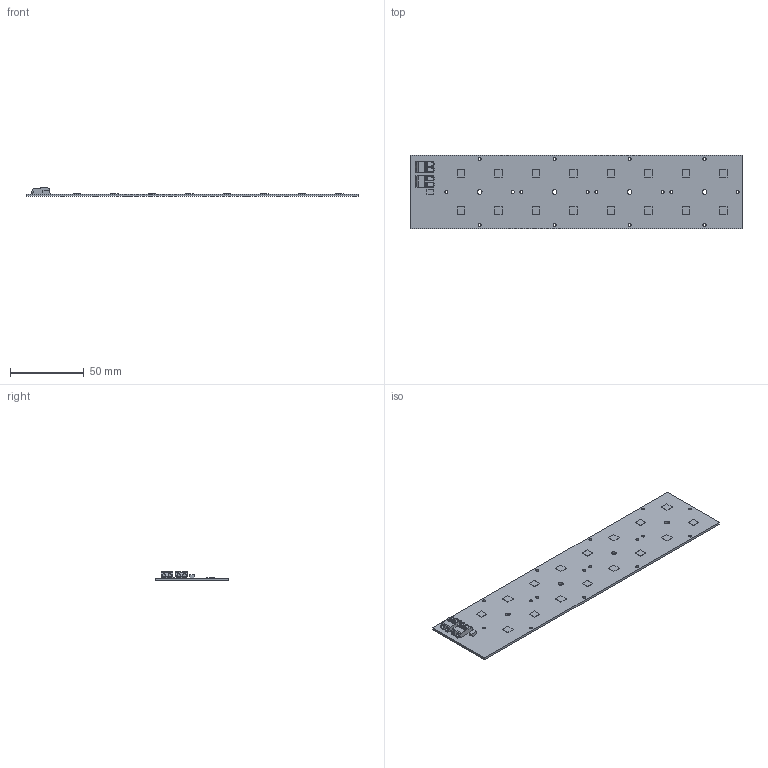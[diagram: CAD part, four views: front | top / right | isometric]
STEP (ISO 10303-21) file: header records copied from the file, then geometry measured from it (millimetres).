
FILE_DESCRIPTION(('Open CASCADE Model'),'2;1');
FILE_NAME('Open CASCADE Shape Model','2025-11-18T13:29:56',('Author'),( 'Open CASCADE'),'Open CASCADE STEP processor 7.5','Open CASCADE 7.5' ,'Unknown');
FILE_SCHEMA(('AUTOMOTIVE_DESIGN { 1 0 10303 214 1 1 1 1 }'));
Length unit declared in the file: millimetre
Products named in the file (29): PCB; Board; Open CASCADE STEP translator 7.5 4.1.1; LED16; 7274493776; Extruded; LED15; LED14; 7274493296; LED13; TVS; 6591467776; LED1; LED12; LED8; LED10; LED4; LED11; LED5; LED7; LED6; LED2; LED3; LED9; J2; 2060-452_998-404; J1
Assembly tree (43 placements, depth 4):
  PCB
    Board
      Open CASCADE STEP translator 7.5 4.1.1
    LED16
      7274493776
        Extruded
    LED15
      7274493776
        Extruded
    LED14
      7274493296
        Extruded
    LED13
      7274493296
        Extruded
    TVS
      6591467776
        Extruded
    LED1
      7274493296
        Extruded
    LED12
      7274493776
        Extruded
    LED8
      7274493296
        Extruded
    LED10
      7274493296
        Extruded
    LED4
      7274493776
        Extruded
    LED11
      7274493776
        Extruded
    LED5
      7274493296
        Extruded
    LED7
      7274493296
        Extruded
    LED6
      7274493296
        Extruded
    LED2
      7274493296
        Extruded
    LED3
      7274493776
        Extruded
    LED9
      7274493296
        Extruded
    J2
      2060-452_998-404
    J1
      2060-452_998-404
Bounding box: 225 x 50 x 5.95 mm (x, y, z)
Volume: 18584.6 mm3; surface area: 25569.3 mm2
Topology: 20 solids, 20 shells, 510 faces, 1378 edges, 916 vertices
Faces by surface type: plane 382, cylinder 124, sphere 4
Full cylindrical faces by diameter (mm): 2.1 x16, 2.25 x4, 3.2 x4
Entity records: 9442 total; most frequent: CARTESIAN_POINT 1429, DIRECTION 1329, ORIENTED_EDGE 1278, EDGE_CURVE 639, LINE 461, VECTOR 461, AXIS2_PLACEMENT_3D 434, VERTEX_POINT 426
